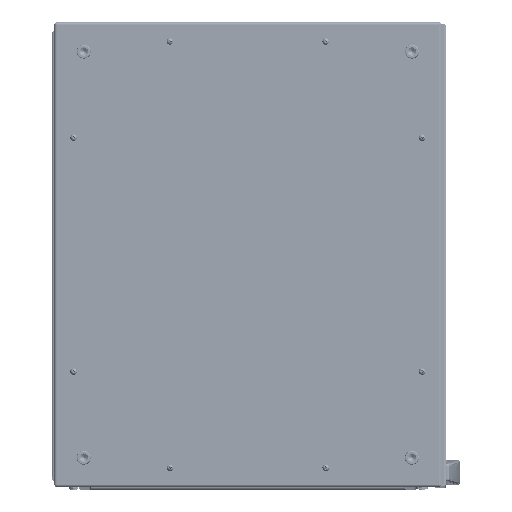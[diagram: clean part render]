
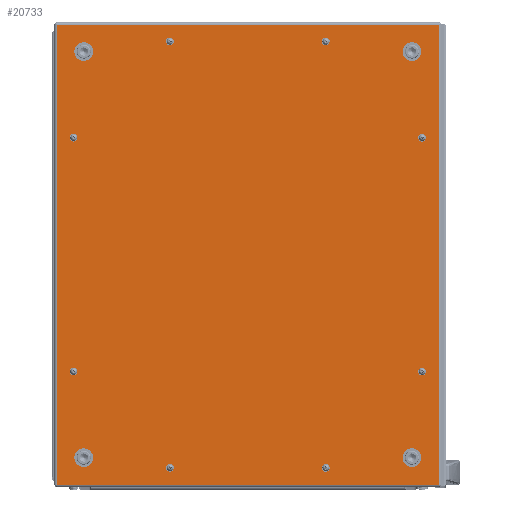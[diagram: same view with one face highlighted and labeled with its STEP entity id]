
A CAD part, top view. The second image highlights one B-rep face of the part: STEP entity #20733.
In plain terms, the highlighted planar face has unit normal (0, 0, 1).
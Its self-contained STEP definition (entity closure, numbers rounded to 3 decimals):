
#20733=ADVANCED_FACE('',(#124948,#124950,#124952,#124954,#124956,#124958,#124960,
#124962,#124964,#124966,#124968,#124970,#124972),#124974,.T.);
#124948=FACE_BOUND('',#124949,.T.);
#124949=EDGE_LOOP('',(#204854,#204855,#204856,#204857));
#124950=FACE_BOUND('',#124951,.T.);
#124951=EDGE_LOOP('',(#204858));
#124952=FACE_BOUND('',#124953,.T.);
#124953=EDGE_LOOP('',(#204859));
#124954=FACE_BOUND('',#124955,.T.);
#124955=EDGE_LOOP('',(#204860));
#124956=FACE_BOUND('',#124957,.T.);
#124957=EDGE_LOOP('',(#204861));
#124958=FACE_BOUND('',#124959,.T.);
#124959=EDGE_LOOP('',(#204862));
#124960=FACE_BOUND('',#124961,.T.);
#124961=EDGE_LOOP('',(#204863));
#124962=FACE_BOUND('',#124963,.T.);
#124963=EDGE_LOOP('',(#204864));
#124964=FACE_BOUND('',#124965,.T.);
#124965=EDGE_LOOP('',(#204865));
#124966=FACE_BOUND('',#124967,.T.);
#124967=EDGE_LOOP('',(#204866));
#124968=FACE_BOUND('',#124969,.T.);
#124969=EDGE_LOOP('',(#204867));
#124970=FACE_BOUND('',#124971,.T.);
#124971=EDGE_LOOP('',(#204868));
#124972=FACE_BOUND('',#124973,.T.);
#124973=EDGE_LOOP('',(#204869));
#124974=PLANE('',#124975);
#124975=AXIS2_PLACEMENT_3D('',#124976,#124977,#124978);
#124976=CARTESIAN_POINT('',(0.,0.,1.5));
#124977=DIRECTION('',(0.,0.,1.));
#124978=DIRECTION('',(0.,1.,0.));
#204854=ORIENTED_EDGE('',*,*,#241674,.T.);
#204855=ORIENTED_EDGE('',*,*,#241675,.T.);
#204856=ORIENTED_EDGE('',*,*,#241676,.T.);
#204857=ORIENTED_EDGE('',*,*,#241677,.T.);
#204858=ORIENTED_EDGE('',*,*,#241653,.T.);
#204859=ORIENTED_EDGE('',*,*,#241652,.T.);
#204860=ORIENTED_EDGE('',*,*,#241651,.T.);
#204861=ORIENTED_EDGE('',*,*,#241650,.T.);
#204862=ORIENTED_EDGE('',*,*,#241645,.T.);
#204863=ORIENTED_EDGE('',*,*,#241646,.T.);
#204864=ORIENTED_EDGE('',*,*,#241647,.T.);
#204865=ORIENTED_EDGE('',*,*,#241648,.T.);
#204866=ORIENTED_EDGE('',*,*,#241644,.T.);
#204867=ORIENTED_EDGE('',*,*,#241643,.T.);
#204868=ORIENTED_EDGE('',*,*,#241642,.T.);
#204869=ORIENTED_EDGE('',*,*,#241641,.T.);
#241641=EDGE_CURVE('',#295376,#295376,#295377,.F.);
#241642=EDGE_CURVE('',#295378,#295378,#295379,.F.);
#241643=EDGE_CURVE('',#295380,#295380,#295381,.F.);
#241644=EDGE_CURVE('',#295382,#295382,#295383,.F.);
#241645=EDGE_CURVE('',#295384,#295384,#295385,.F.);
#241646=EDGE_CURVE('',#295386,#295386,#295387,.F.);
#241647=EDGE_CURVE('',#295388,#295388,#295389,.F.);
#241648=EDGE_CURVE('',#295390,#295390,#295391,.F.);
#241650=EDGE_CURVE('',#295394,#295394,#295395,.F.);
#241651=EDGE_CURVE('',#295396,#295396,#295397,.F.);
#241652=EDGE_CURVE('',#295398,#295398,#295399,.F.);
#241653=EDGE_CURVE('',#295400,#295400,#295401,.F.);
#241674=EDGE_CURVE('',#295438,#295439,#295440,.T.);
#241675=EDGE_CURVE('',#295439,#295441,#295442,.T.);
#241676=EDGE_CURVE('',#295441,#295443,#295444,.T.);
#241677=EDGE_CURVE('',#295443,#295438,#295445,.T.);
#295376=VERTEX_POINT('',#417815);
#295377=CIRCLE('',#417816,3.75);
#295378=VERTEX_POINT('',#417820);
#295379=CIRCLE('',#417821,3.75);
#295380=VERTEX_POINT('',#417825);
#295381=CIRCLE('',#417826,3.75);
#295382=VERTEX_POINT('',#417830);
#295383=CIRCLE('',#417831,3.75);
#295384=VERTEX_POINT('',#417835);
#295385=CIRCLE('',#417836,7.);
#295386=VERTEX_POINT('',#417840);
#295387=CIRCLE('',#417841,7.);
#295388=VERTEX_POINT('',#417845);
#295389=CIRCLE('',#417846,7.);
#295390=VERTEX_POINT('',#417850);
#295391=CIRCLE('',#417851,7.);
#295394=VERTEX_POINT('',#417860);
#295395=CIRCLE('',#417861,3.75);
#295396=VERTEX_POINT('',#417865);
#295397=CIRCLE('',#417866,3.75);
#295398=VERTEX_POINT('',#417870);
#295399=CIRCLE('',#417871,3.75);
#295400=VERTEX_POINT('',#417875);
#295401=CIRCLE('',#417876,3.75);
#295438=VERTEX_POINT('',#418092);
#295439=VERTEX_POINT('',#418093);
#295440=LINE('',#418094,#418095);
#295441=VERTEX_POINT('',#418097);
#295442=LINE('',#418098,#418099);
#295443=VERTEX_POINT('',#418101);
#295444=LINE('',#418102,#418103);
#295445=LINE('',#418105,#418106);
#417815=CARTESIAN_POINT('',(-223.5,153.75,1.5));
#417816=AXIS2_PLACEMENT_3D('',#417817,#417818,#417819);
#417817=CARTESIAN_POINT('',(-223.5,150.,1.5));
#417818=DIRECTION('',(0.,0.,1.));
#417819=DIRECTION('',(0.,1.,0.));
#417820=CARTESIAN_POINT('',(223.5,-146.25,1.5));
#417821=AXIS2_PLACEMENT_3D('',#417822,#417823,#417824);
#417822=CARTESIAN_POINT('',(223.5,-150.,1.5));
#417823=DIRECTION('',(0.,0.,1.));
#417824=DIRECTION('',(0.,1.,0.));
#417825=CARTESIAN_POINT('',(223.5,153.75,1.5));
#417826=AXIS2_PLACEMENT_3D('',#417827,#417828,#417829);
#417827=CARTESIAN_POINT('',(223.5,150.,1.5));
#417828=DIRECTION('',(0.,0.,1.));
#417829=DIRECTION('',(0.,1.,0.));
#417830=CARTESIAN_POINT('',(-223.5,-146.25,1.5));
#417831=AXIS2_PLACEMENT_3D('',#417832,#417833,#417834);
#417832=CARTESIAN_POINT('',(-223.5,-150.,1.5));
#417833=DIRECTION('',(0.,0.,1.));
#417834=DIRECTION('',(0.,1.,0.));
#417835=CARTESIAN_POINT('',(210.5,-253.5,1.5));
#417836=AXIS2_PLACEMENT_3D('',#417837,#417838,#417839);
#417837=CARTESIAN_POINT('',(210.5,-260.5,1.5));
#417838=DIRECTION('',(0.,0.,1.));
#417839=DIRECTION('',(0.,1.,0.));
#417840=CARTESIAN_POINT('',(-210.5,267.5,1.5));
#417841=AXIS2_PLACEMENT_3D('',#417842,#417843,#417844);
#417842=CARTESIAN_POINT('',(-210.5,260.5,1.5));
#417843=DIRECTION('',(0.,0.,1.));
#417844=DIRECTION('',(0.,1.,0.));
#417845=CARTESIAN_POINT('',(-210.5,-253.5,1.5));
#417846=AXIS2_PLACEMENT_3D('',#417847,#417848,#417849);
#417847=CARTESIAN_POINT('',(-210.5,-260.5,1.5));
#417848=DIRECTION('',(0.,0.,1.));
#417849=DIRECTION('',(0.,1.,0.));
#417850=CARTESIAN_POINT('',(210.5,267.5,1.5));
#417851=AXIS2_PLACEMENT_3D('',#417852,#417853,#417854);
#417852=CARTESIAN_POINT('',(210.5,260.5,1.5));
#417853=DIRECTION('',(0.,0.,1.));
#417854=DIRECTION('',(0.,1.,0.));
#417860=CARTESIAN_POINT('',(-100.,-269.75,1.5));
#417861=AXIS2_PLACEMENT_3D('',#417862,#417863,#417864);
#417862=CARTESIAN_POINT('',(-100.,-273.5,1.5));
#417863=DIRECTION('',(0.,0.,1.));
#417864=DIRECTION('',(0.,1.,0.));
#417865=CARTESIAN_POINT('',(100.,277.25,1.5));
#417866=AXIS2_PLACEMENT_3D('',#417867,#417868,#417869);
#417867=CARTESIAN_POINT('',(100.,273.5,1.5));
#417868=DIRECTION('',(0.,0.,1.));
#417869=DIRECTION('',(0.,1.,0.));
#417870=CARTESIAN_POINT('',(-100.,277.25,1.5));
#417871=AXIS2_PLACEMENT_3D('',#417872,#417873,#417874);
#417872=CARTESIAN_POINT('',(-100.,273.5,1.5));
#417873=DIRECTION('',(0.,0.,1.));
#417874=DIRECTION('',(0.,1.,0.));
#417875=CARTESIAN_POINT('',(100.,-269.75,1.5));
#417876=AXIS2_PLACEMENT_3D('',#417877,#417878,#417879);
#417877=CARTESIAN_POINT('',(100.,-273.5,1.5));
#417878=DIRECTION('',(0.,0.,1.));
#417879=DIRECTION('',(0.,1.,0.));
#418092=CARTESIAN_POINT('',(245.2,295.2,1.5));
#418093=CARTESIAN_POINT('',(-245.2,295.2,1.5));
#418094=CARTESIAN_POINT('',(245.2,295.2,1.5));
#418095=VECTOR('',#418096,1.);
#418096=DIRECTION('',(-1.,0.,0.));
#418097=CARTESIAN_POINT('',(-245.2,-295.2,1.5));
#418098=CARTESIAN_POINT('',(-245.2,295.2,1.5));
#418099=VECTOR('',#418100,1.);
#418100=DIRECTION('',(0.,-1.,0.));
#418101=CARTESIAN_POINT('',(245.2,-295.2,1.5));
#418102=CARTESIAN_POINT('',(-245.2,-295.2,1.5));
#418103=VECTOR('',#418104,1.);
#418104=DIRECTION('',(1.,0.,0.));
#418105=CARTESIAN_POINT('',(245.2,-295.2,1.5));
#418106=VECTOR('',#418107,1.);
#418107=DIRECTION('',(0.,1.,0.));
